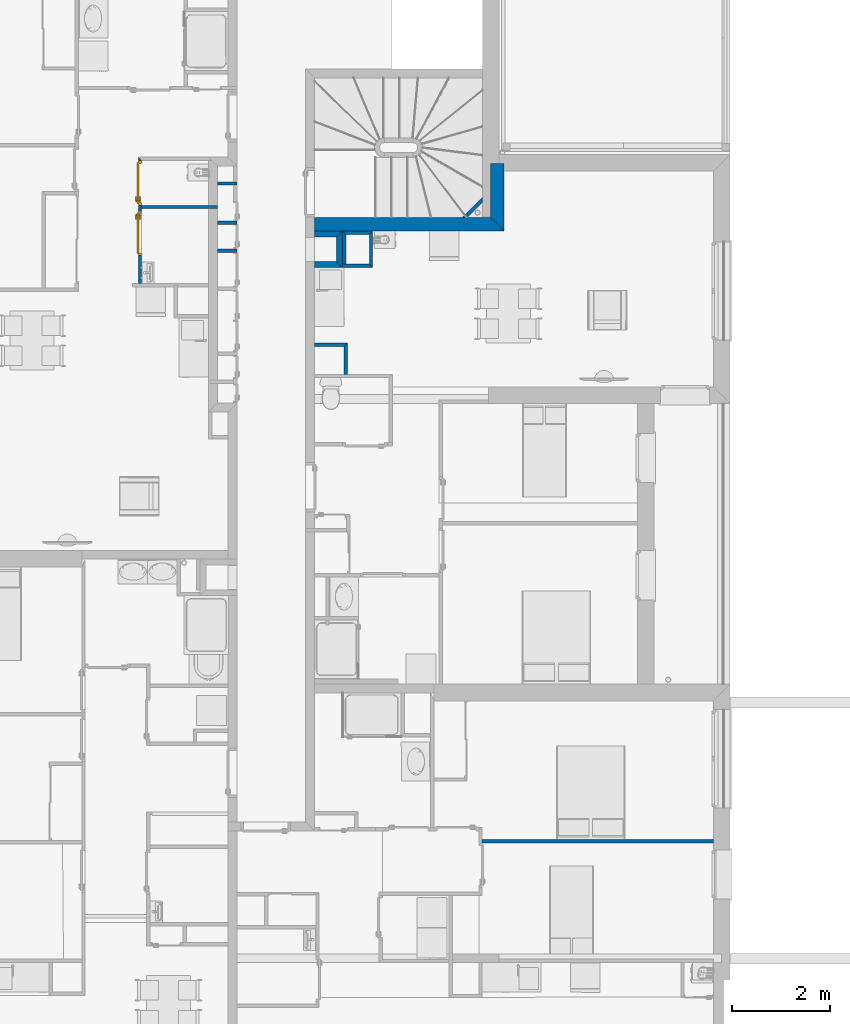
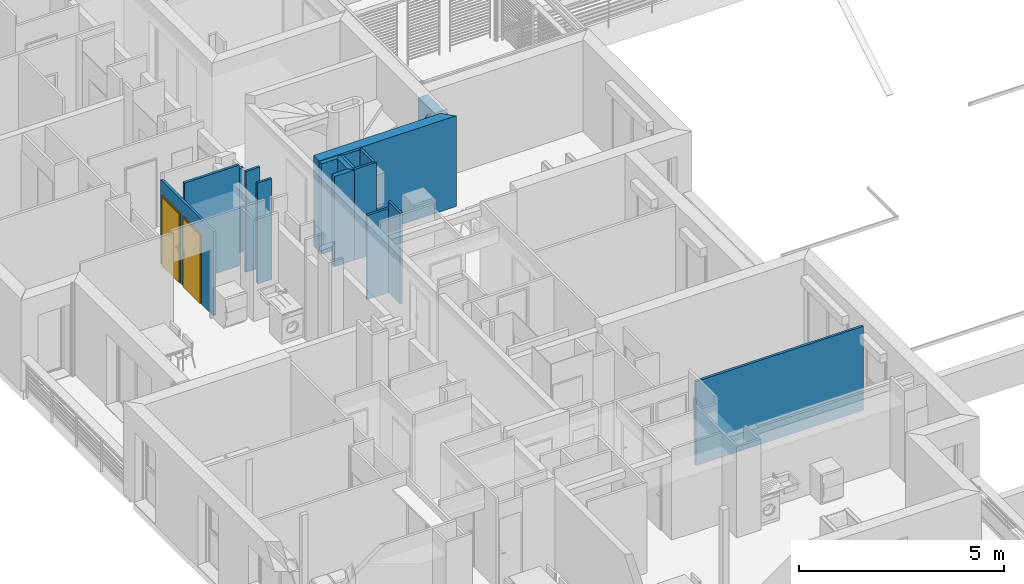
# One storey, part 39 of 171: 18 walls, 2 doors, 2 openings.
"""IFC2X3 building model written with IfcOpenShell, lengths in millimetres."""

from ifc_helpers import new_model, entity, si_unit, converted_unit, derived_unit, money_unit, direction, frame, origin_with_axes, origin_2d_with_axis, place, context, subcontext, project, spatial, polyline, rectangle, outline, extrude, faceted_brep, source, transform, mapped, material, layer, layer_set, layer_usage, type_object, element, fill, save


model = new_model("IFC2X3")

# Units and contexts
model_context = context("Model", 3, precision=0.01, world=origin_with_axes(), true_north=direction((0.0, 1.0)))
body_context = subcontext(model_context, "Body", "Model", "MODEL_VIEW")
ifc_project = project(units=[si_unit("LENGTHUNIT", "METRE", prefix="MILLI"), si_unit("AREAUNIT", "SQUARE_METRE"), si_unit("VOLUMEUNIT", "CUBIC_METRE"), converted_unit("PLANEANGLEUNIT", "DEGREE", entity("IfcPlaneAngleMeasure", 0.0174532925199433), si_unit("PLANEANGLEUNIT", "RADIAN"), dimensions=[0, 0, 0, 0, 0, 0, 0]), money_unit("USD"), converted_unit("TIMEUNIT", "Year", entity("IfcTimeMeasure", 31557600.0), si_unit("TIMEUNIT", "SECOND"), dimensions=[0, 0, 1, 0, 0, 0, 0]), si_unit("MASSUNIT", "GRAM", prefix="KILO"), si_unit("THERMODYNAMICTEMPERATUREUNIT", "DEGREE_CELSIUS"), si_unit("LUMINOUSINTENSITYUNIT", "LUMEN"), si_unit("ENERGYUNIT", "JOULE", prefix="MEGA"), derived_unit("THERMALCONDUCTANCEUNIT", [(si_unit("POWERUNIT", "WATT"), 1), (si_unit("LENGTHUNIT", "METRE"), -1), (si_unit("THERMODYNAMICTEMPERATUREUNIT", "KELVIN"), -1)]), derived_unit("SPECIFICHEATCAPACITYUNIT", [(si_unit("ENERGYUNIT", "JOULE"), 1), (si_unit("MASSUNIT", "GRAM", prefix="KILO"), -1), (si_unit("THERMODYNAMICTEMPERATUREUNIT", "KELVIN"), -1)]), derived_unit("MASSDENSITYUNIT", [(si_unit("MASSUNIT", "GRAM", prefix="KILO"), 1), (si_unit("VOLUMEUNIT", "CUBIC_METRE"), -1)])], contexts=[model_context])

# Site, building, storey
site_placement = place(None, origin_with_axes())
site = spatial("IfcSite", under=ifc_project, at=site_placement, Name="Site", CompositionType="ELEMENT")
building_placement = place(site_placement, origin_with_axes())
building = spatial("IfcBuilding", under=site, at=building_placement, Name="Bâtiment", CompositionType="ELEMENT")
storey_placement = place(building_placement, frame((0.0, 0.0, 3000.0), z_axis=(0.0, 0.0, 1.0), x_axis=(1.0, 0.0, 0.0)))
storey = spatial("IfcBuildingStorey", under=building, at=storey_placement, Name="rdc", CompositionType="ELEMENT", Elevation=3000.0)

# Wall, openings, doors
ifc_material_1 = material(Name="Hachure solide 268963992")
ifc_layer_1 = layer(ifc_material_1, 70.0, ventilated="UNKNOWN")
ifc_layer_set_1 = layer_set([ifc_layer_1], Name="Cloison 70 0826278243")
ifc_layer_usage_1 = layer_usage(ifc_layer_set_1, "AXIS2", "POSITIVE", -70.0)
wall_type_1 = type_object("IfcWallType", Name="Cloison 70 0826278243 70", PredefinedType="NOTDEFINED")
wall_1_placement = place(storey_placement, frame((2222302.398579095, -638652.0255094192, 0.0), z_axis=(0.0, 0.0, 1.0), x_axis=(2.461209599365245e-07, 0.9999999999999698, 0.0)))
wall_1 = element("IfcWallStandardCase", 1, at=wall_1_placement, inside=storey, type_object=wall_type_1, material=ifc_layer_usage_1, Name="Mur-149", context=body_context, shape_type="SweptSolid", body=[
    extrude(outline(polyline([(69.99999999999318, -70.00000000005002), (2574.727457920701, -70.00000000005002), (2644.727442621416, 0.0), (69.99999999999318, 0.0), (69.99999999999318, -70.00000000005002)])), origin_with_axes(), (0.0, 0.0, 1.0), 2504.826233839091),
])
opening_1_placement = place(wall_1_placement, frame((1095.779735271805, -2.273736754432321e-10, 0.0), z_axis=(0.0, 0.0, 1.0), x_axis=(1.0, 0.0, 0.0)))
opening_1 = element("IfcOpeningElement", 2, at=opening_1_placement, cuts=wall_1, Name="Por-278", context=body_context, shape_type="SweptSolid", body=[
    extrude(rectangle(XDim=910.0, YDim=2080.0, at=origin_2d_with_axis()), frame((0.0, -70.00000000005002, 1040.0), z_axis=(0.0, -1.0, 0.0), x_axis=(-1.0, 0.0, 0.0)), (0.0, 0.0, -1.0), 140.0),
])
opening_2_placement = place(wall_1_placement, frame((2119.727458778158, -1.13686837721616e-10, 0.0), z_axis=(0.0, 0.0, 1.0), x_axis=(1.0, 0.0, 0.0)))
opening_2 = element("IfcOpeningElement", 3, at=opening_2_placement, cuts=wall_1, Name="Por-278", context=body_context, shape_type="SweptSolid", body=[
    extrude(rectangle(XDim=910.0, YDim=2080.0, at=origin_2d_with_axis()), frame((0.0, -70.00000000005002, 1040.0), z_axis=(0.0, 1.0, 0.0), x_axis=(1.0, 0.0, 0.0)), (0.0, 0.0, 1.0), 140.0),
])
door_style = type_object("IfcDoorStyle", Name="Porte_1v", ConstructionType="NOTDEFINED", OperationType="NOTDEFINED", ParameterTakesPrecedence=False, Sizeable=False)
shared_shape_1 = source(origin_with_axes(), body_context, "Body", "Brep", [
    faceted_brep([(454.9999999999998, 0.0, 0.0), (414.9999999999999, 0.0, 0.0), (414.9999999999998, 0.0, 2040.0), (-414.9999999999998, 0.0, 2040.0), (-414.9999999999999, 0.0, 0.0), (-454.9999999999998, 0.0, 0.0), (-454.9999999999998, 0.0, 2080.0), (454.9999999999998, 0.0, 2080.0), (454.9999999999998, -69.99999999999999, 0.0), (399.9999999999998, -69.99999999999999, 0.0), (399.9999999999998, -15.0, 0.0), (414.9999999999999, -15.0, 0.0), (414.9999999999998, -15.0, 2040.0), (-414.9999999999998, -15.0, 2040.0), (-414.9999999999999, -15.0, 0.0), (-399.9999999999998, -15.0, 0.0), (-399.9999999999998, -69.99999999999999, 0.0), (-454.9999999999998, -69.99999999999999, 0.0), (-454.9999999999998, -69.99999999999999, 2080.0), (454.9999999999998, -69.99999999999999, 2080.0), (-399.9999999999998, -69.99999999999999, 2025.0), (399.9999999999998, -69.99999999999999, 2025.0), (399.9999999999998, -15.0, 2025.0), (-399.9999999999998, -15.0, 2025.0)], [[[0, 1, 2, 3, 4, 5, 6, 7]], [[0, 8, 9, 10, 11, 1]], [[1, 11, 12, 2]], [[2, 12, 13, 3]], [[3, 13, 14, 4]], [[5, 4, 14, 15, 16, 17]], [[18, 6, 5, 17]], [[19, 7, 6, 18]], [[8, 0, 7, 19]], [[9, 8, 19, 18, 17, 16, 20, 21]], [[10, 9, 21, 22]], [[11, 10, 22, 23, 15, 14, 13, 12]], [[23, 20, 16, 15]], [[22, 21, 20, 23]]]),
    faceted_brep([(-349.9999999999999, -15.0, 900.0), (-389.9999999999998, -15.0, 900.0), (-389.9999999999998, -15.0, 1100.0), (-349.9999999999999, -15.0, 1100.0), (-349.9999999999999, -24.99999999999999, 900.0), (-389.9999999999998, -24.99999999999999, 900.0), (-389.9999999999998, -24.99999999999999, 1100.0), (-349.9999999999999, -24.99999999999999, 1100.0)], [[[0, 1, 2, 3]], [[1, 0, 4, 5]], [[2, 1, 5, 6]], [[3, 2, 6, 7]], [[0, 3, 7, 4]], [[5, 4, 7, 6]]]),
    faceted_brep([(-279.9999999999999, -24.99999999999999, 1000.0), (-379.9999999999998, -24.99999999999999, 1000.0), (-379.9999999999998, -24.99999999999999, 1020.0), (-279.9999999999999, -24.99999999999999, 1020.0), (-279.9999999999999, -44.99999999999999, 1000.0), (-379.9999999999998, -44.99999999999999, 1000.0), (-379.9999999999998, -44.99999999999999, 1020.0), (-279.9999999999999, -44.99999999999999, 1020.0)], [[[0, 1, 2, 3]], [[1, 0, 4, 5]], [[2, 1, 5, 6]], [[3, 2, 6, 7]], [[0, 3, 7, 4]], [[5, 4, 7, 6]]]),
    faceted_brep([(-349.9999999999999, 34.99999999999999, 900.0), (-389.9999999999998, 34.99999999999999, 900.0), (-389.9999999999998, 34.99999999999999, 1100.0), (-349.9999999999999, 34.99999999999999, 1100.0), (-349.9999999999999, 24.99999999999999, 900.0), (-389.9999999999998, 24.99999999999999, 900.0), (-389.9999999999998, 24.99999999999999, 1100.0), (-349.9999999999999, 24.99999999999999, 1100.0)], [[[0, 1, 2, 3]], [[1, 0, 4, 5]], [[2, 1, 5, 6]], [[3, 2, 6, 7]], [[0, 3, 7, 4]], [[5, 4, 7, 6]]]),
    faceted_brep([(-279.9999999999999, 54.99999999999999, 1000.0), (-379.9999999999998, 54.99999999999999, 1000.0), (-379.9999999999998, 54.99999999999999, 1020.0), (-279.9999999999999, 54.99999999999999, 1020.0), (-279.9999999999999, 34.99999999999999, 1000.0), (-379.9999999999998, 34.99999999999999, 1000.0), (-379.9999999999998, 34.99999999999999, 1020.0), (-279.9999999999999, 34.99999999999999, 1020.0)], [[[0, 1, 2, 3]], [[1, 0, 4, 5]], [[2, 1, 5, 6]], [[3, 2, 6, 7]], [[0, 3, 7, 4]], [[5, 4, 7, 6]]]),
    faceted_brep([(-414.9999999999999, 24.99999999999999, 0.0), (414.9999999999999, 24.99999999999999, 0.0), (414.9999999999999, -15.0, 0.0), (-414.9999999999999, -15.0, 0.0), (-414.9999999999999, 24.99999999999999, 2040.0), (414.9999999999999, 24.99999999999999, 2040.0), (414.9999999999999, -15.0, 2040.0), (-414.9999999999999, -15.0, 2040.0)], [[[0, 1, 2, 3]], [[0, 4, 5, 1]], [[1, 5, 6, 2]], [[3, 2, 6, 7]], [[4, 0, 3, 7]], [[5, 4, 7, 6]]]),
])
door_1_placement = place(opening_2_placement, frame((-415.0000000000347, -1.13686837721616e-10, 0.0), z_axis=(0.0, 0.0, 1.0), x_axis=(1.0, 0.0, 0.0)))
door_1 = element("IfcDoor", 4, at=door_1_placement, inside=storey, type_object=door_style, Name="Por-278", OverallHeight=2040.0, OverallWidth=830.0, context=body_context, shape_type="MappedRepresentation", body=[
    mapped(shared_shape_1, transform((415.0000000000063, 0.0, 0.0))),
])
fill(opening_2, door_1)
shared_shape_2 = source(origin_with_axes(), body_context, "Body", "Brep", [
    faceted_brep([(-454.9999999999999, 0.0, 0.0), (-454.9999999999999, 0.0, 2080.0), (454.9999999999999, 0.0, 2080.0), (454.9999999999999, 0.0, 0.0), (415.0, 0.0, 0.0), (414.9999999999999, 0.0, 2040.0), (-414.9999999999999, 0.0, 2040.0), (-415.0, 0.0, 0.0), (-454.9999999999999, -70.0, 0.0), (-454.9999999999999, -70.0, 2080.0), (454.9999999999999, -70.0, 2080.0), (454.9999999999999, -70.0, 0.0), (399.9999999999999, -70.0, 0.0), (399.9999999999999, -15.0, 0.0), (415.0, -15.0, 0.0), (414.9999999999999, -15.0, 2040.0), (-414.9999999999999, -15.0, 2040.0), (-415.0, -15.0, 0.0), (-399.9999999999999, -15.0, 0.0), (-399.9999999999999, -70.0, 0.0), (-399.9999999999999, -70.0, 2025.0), (399.9999999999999, -70.0, 2025.0), (399.9999999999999, -15.0, 2025.0), (-399.9999999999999, -15.0, 2025.0)], [[[0, 1, 2, 3, 4, 5, 6, 7]], [[8, 9, 1, 0]], [[9, 10, 2, 1]], [[10, 11, 3, 2]], [[3, 11, 12, 13, 14, 4]], [[5, 4, 14, 15]], [[6, 5, 15, 16]], [[7, 6, 16, 17]], [[0, 7, 17, 18, 19, 8]], [[19, 20, 21, 12, 11, 10, 9, 8]], [[22, 13, 12, 21]], [[17, 16, 15, 14, 13, 22, 23, 18]], [[18, 23, 20, 19]], [[23, 22, 21, 20]]]),
    faceted_brep([(350.0, -15.0, 900.0), (350.0, -15.0, 1100.0), (389.9999999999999, -15.0, 1100.0), (389.9999999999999, -15.0, 900.0), (350.0, -25.0, 900.0), (350.0, -25.0, 1100.0), (389.9999999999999, -25.0, 1100.0), (389.9999999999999, -25.0, 900.0)], [[[0, 1, 2, 3]], [[0, 4, 5, 1]], [[1, 5, 6, 2]], [[2, 6, 7, 3]], [[3, 7, 4, 0]], [[7, 6, 5, 4]]]),
    faceted_brep([(279.9999999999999, -25.0, 1000.0), (279.9999999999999, -25.0, 1020.0), (379.9999999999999, -25.0, 1020.0), (379.9999999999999, -25.0, 1000.0), (279.9999999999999, -45.0, 1000.0), (279.9999999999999, -45.0, 1020.0), (379.9999999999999, -45.0, 1020.0), (379.9999999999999, -45.0, 1000.0)], [[[0, 1, 2, 3]], [[0, 4, 5, 1]], [[1, 5, 6, 2]], [[2, 6, 7, 3]], [[3, 7, 4, 0]], [[7, 6, 5, 4]]]),
    faceted_brep([(350.0, 35.0, 900.0), (350.0, 35.0, 1100.0), (389.9999999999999, 35.0, 1100.0), (389.9999999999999, 35.0, 900.0), (350.0, 25.0, 900.0), (350.0, 25.0, 1100.0), (389.9999999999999, 25.0, 1100.0), (389.9999999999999, 25.0, 900.0)], [[[0, 1, 2, 3]], [[0, 4, 5, 1]], [[1, 5, 6, 2]], [[2, 6, 7, 3]], [[3, 7, 4, 0]], [[7, 6, 5, 4]]]),
    faceted_brep([(279.9999999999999, 55.00000000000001, 1000.0), (279.9999999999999, 55.00000000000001, 1020.0), (379.9999999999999, 55.00000000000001, 1020.0), (379.9999999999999, 55.00000000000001, 1000.0), (279.9999999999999, 35.0, 1000.0), (279.9999999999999, 35.0, 1020.0), (379.9999999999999, 35.0, 1020.0), (379.9999999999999, 35.0, 1000.0)], [[[0, 1, 2, 3]], [[0, 4, 5, 1]], [[1, 5, 6, 2]], [[2, 6, 7, 3]], [[3, 7, 4, 0]], [[7, 6, 5, 4]]]),
    faceted_brep([(415.0, 25.0, 0.0), (415.0, -15.0, 0.0), (-415.0, -15.0, 0.0), (-415.0, 25.0, 0.0), (415.0, 25.0, 2040.0), (415.0, -15.0, 2040.0), (-415.0, -15.0, 2040.0), (-415.0, 25.0, 2040.0)], [[[0, 1, 2, 3]], [[4, 5, 1, 0]], [[1, 5, 6, 2]], [[3, 2, 6, 7]], [[0, 3, 7, 4]], [[7, 6, 5, 4]]]),
])
door_2_placement = place(opening_1_placement, frame((-414.999999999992, 3.410605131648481e-10, 0.0), z_axis=(0.0, 0.0, 1.0), x_axis=(1.0, 0.0, 0.0)))
door_2 = element("IfcDoor", 5, at=door_2_placement, inside=storey, type_object=door_style, Name="Por-278", OverallHeight=2040.0, OverallWidth=830.0, context=body_context, shape_type="MappedRepresentation", body=[
    mapped(shared_shape_2, transform((414.999999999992, -1.13686837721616e-10, 0.0))),
])
fill(opening_1, door_2)

# Walls
ifc_layer_usage_2 = layer_usage(ifc_layer_set_1, "AXIS2", "NEGATIVE", 0.0)
wall_2_placement = place(storey_placement, frame((2223732.399917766, -637879.3890085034, 0.0), z_axis=(0.0, 0.0, 1.0), x_axis=(1.0, 0.0, 0.0)))
element("IfcWallStandardCase", 6, at=wall_2_placement, inside=storey, type_object=wall_type_1, material=ifc_layer_usage_2, Name="Mur-121", context=body_context, shape_type="SweptSolid", body=[
    extrude(outline(polyline([(180.0002031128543, -69.99999999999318), (580.0717240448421, -69.99999999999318), (580.0717240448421, 0.0), (180.0002031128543, 0.0), (180.0002031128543, -69.99999999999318)])), origin_with_axes(), (0.0, 0.0, 1.0), 3000.0),
])
ifc_layer_usage_3 = layer_usage(ifc_layer_set_1, "AXIS2", "NEGATIVE", 0.0)
wall_3_placement = place(storey_placement, frame((2223732.399917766, -637309.3890085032, 0.0), z_axis=(0.0, 0.0, 1.0), x_axis=(1.0, 0.0, 0.0)))
element("IfcWallStandardCase", 7, at=wall_3_placement, inside=storey, type_object=wall_type_1, material=ifc_layer_usage_3, Name="Mur-121", context=body_context, shape_type="SweptSolid", body=[
    extrude(outline(polyline([(180.0002031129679, -69.99999999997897), (580.0980729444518, -69.99999999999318), (580.0980729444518, 0.0), (180.0002031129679, 0.0), (180.0002031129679, -69.99999999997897)])), origin_with_axes(), (0.0, 0.0, 1.0), 3000.0),
])
ifc_layer_usage_4 = layer_usage(ifc_layer_set_1, "AXIS2", "POSITIVE", -70.0)
wall_4_placement = place(storey_placement, frame((2223912.40001153, -637057.2977132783, 0.0), z_axis=(0.0, 0.0, 1.0), x_axis=(-0.9999999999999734, -2.308105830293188e-07, 0.0)))
element("IfcWallStandardCase", 8, at=wall_4_placement, inside=storey, type_object=wall_type_1, material=ifc_layer_usage_4, Name="Mur-149", context=body_context, shape_type="SweptSolid", body=[
    extrude(outline(polyline([(0.0, -69.99999999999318), (1540.001006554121, -69.99999999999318), (1540.001039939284, 0.0), (0.0, 0.0), (0.0, -69.99999999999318)])), origin_with_axes(), (0.0, 0.0, 1.0), 3000.0),
])
ifc_layer_usage_5 = layer_usage(ifc_layer_set_1, "AXIS2", "NEGATIVE", 70.0)
wall_5_placement = place(storey_placement, frame((2225712.318356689, -639860.3706731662, 0.0), z_axis=(0.0, 0.0, 1.0), x_axis=(0.9999999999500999, -9.990002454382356e-06, 0.0)))
element("IfcWallStandardCase", 9, at=wall_5_placement, inside=storey, type_object=wall_type_1, material=ifc_layer_usage_5, Name="Mur-149", context=body_context, shape_type="SweptSolid", body=[
    extrude(outline(polyline([(180.0000000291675, 0.0), (780.000000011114, 0.0), (849.999300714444, 70.00000000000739), (179.9993007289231, 70.00000000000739), (180.0000000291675, 0.0)])), origin_with_axes(), (0.0, 0.0, 1.0), 2500.0),
])
ifc_layer_usage_6 = layer_usage(ifc_layer_set_1, "AXIS2", "NEGATIVE", 70.0)
wall_6_placement = place(storey_placement, frame((2229236.880543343, -649972.5110715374, 0.0), z_axis=(0.0, 0.0, 1.0), x_axis=(1.0, 0.0, 0.0)))
element("IfcWallStandardCase", 10, at=wall_6_placement, inside=storey, type_object=wall_type_1, material=ifc_layer_usage_6, Name="Mur-149", context=body_context, shape_type="SweptSolid", body=[
    extrude(outline(polyline([(69.9984979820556, 0.0), (4779.764193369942, 0.0), (4779.763796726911, 69.99999999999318), (69.998930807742, 69.99999999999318), (69.9984979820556, 0.0)])), origin_with_axes(), (0.0, 0.0, 1.0), 2500.0),
])
ifc_layer_usage_7 = layer_usage(ifc_layer_set_1, "AXIS2", "POSITIVE", 0.0)
wall_7_placement = place(storey_placement, frame((2229006.076128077, -637233.3438949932, 0.0), z_axis=(0.0, 0.0, 1.0), x_axis=(0.7071067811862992, 0.7071067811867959, 0.0)))
element("IfcWallStandardCase", 11, at=wall_7_placement, inside=storey, type_object=wall_type_1, material=ifc_layer_usage_7, Name="Mur-120", context=body_context, shape_type="SweptSolid", body=[
    extrude(outline(polyline([(3.215063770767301e-07, -1.13686837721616e-10), (434.7291193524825, -1.13686837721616e-10), (504.7291193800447, 69.99999999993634), (-69.99999967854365, 70.00000000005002), (3.215063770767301e-07, -1.13686837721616e-10)])), origin_with_axes(), (0.0, 0.0, 1.0), 2460.000000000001),
])
ifc_layer_usage_8 = layer_usage(ifc_layer_set_1, "AXIS2", "NEGATIVE", 0.0)
wall_8_placement = place(storey_placement, frame((2223732.400091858, -636509.3242415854, 0.0), z_axis=(0.0, 0.0, 1.0), x_axis=(1.0, 0.0, 0.0)))
element("IfcWallStandardCase", 12, at=wall_8_placement, inside=storey, type_object=wall_type_1, material=ifc_layer_usage_8, Name="Mur-121", context=body_context, shape_type="SweptSolid", body=[
    extrude(outline(polyline([(180.0000290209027, -69.99999999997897), (580.0980729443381, -69.99999999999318), (580.0980729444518, 0.0), (180.0000290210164, 0.0), (180.0000290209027, -69.99999999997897)])), origin_with_axes(), (0.0, 0.0, 1.0), 2500.0),
])
ifc_material_2 = material(Name="Hachure solide 269229667")
ifc_layer_2 = layer(ifc_material_2, 70.0, ventilated="UNKNOWN")
ifc_layer_set_2 = layer_set([ifc_layer_2], Name="Cloison 70 0836576958")
ifc_layer_usage_9 = layer_usage(ifc_layer_set_2, "AXIS2", "NEGATIVE", 0.0)
wall_type_2 = type_object("IfcWallType", Name="Cloison 70 0836576958 70", PredefinedType="NOTDEFINED")
wall_9_placement = place(storey_placement, frame((2227077.294525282, -637515.8216903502, 0.0), z_axis=(0.0, 0.0, 1.0), x_axis=(0.0, -1.0, 0.0)))
element("IfcWallStandardCase", 13, at=wall_9_placement, inside=storey, type_object=wall_type_2, material=ifc_layer_usage_9, Name="Mur-148", context=body_context, shape_type="SweptSolid", body=[
    extrude(outline(polyline([(69.99999999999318, -70.00000000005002), (670.000000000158, -70.00000000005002), (740.0000000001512, 0.0), (0.0, 0.0), (69.99999999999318, -70.00000000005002)])), origin_with_axes(), (0.0, 0.0, 1.0), 2700.0),
])
ifc_layer_usage_10 = layer_usage(ifc_layer_set_2, "AXIS2", "POSITIVE", 0.0)
wall_10_placement = place(storey_placement, frame((2226461.81823076, -637515.8216903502, 0.0), z_axis=(0.0, 0.0, 1.0), x_axis=(0.0, -1.0, 0.0)))
element("IfcWallStandardCase", 14, at=wall_10_placement, inside=storey, type_object=wall_type_2, material=ifc_layer_usage_10, Name="Mur-148", context=body_context, shape_type="SweptSolid", body=[
    extrude(outline(polyline([(0.0, 0.0), (740.0000000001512, 0.0), (740.0000000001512, 70.00000000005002), (69.99999999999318, 70.00000000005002), (0.0, 0.0)])), origin_with_axes(), (0.0, 0.0, 1.0), 2700.0),
])
ifc_layer_usage_11 = layer_usage(ifc_layer_set_2, "AXIS2", "POSITIVE", 0.0)
wall_11_placement = place(storey_placement, frame((2226461.81823076, -638255.8216903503, 0.0), z_axis=(0.0, 0.0, 1.0), x_axis=(1.0, 0.0, 0.0)))
element("IfcWallStandardCase", 15, at=wall_11_placement, inside=storey, type_object=wall_type_2, material=ifc_layer_usage_11, Name="Mur-148", context=body_context, shape_type="SweptSolid", body=[
    extrude(outline(polyline([(-3.410605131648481e-10, 0.0), (615.4762945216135, 0.0), (545.4762945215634, 69.99999999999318), (0.04282755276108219, 69.99999999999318), (-3.410605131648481e-10, 0.0)])), origin_with_axes(), (0.0, 0.0, 1.0), 2700.0),
])
ifc_layer_usage_12 = layer_usage(ifc_layer_set_2, "AXIS2", "NEGATIVE", 0.0)
wall_12_placement = place(storey_placement, frame((2226461.81823076, -637515.8216903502, 0.0), z_axis=(0.0, 0.0, 1.0), x_axis=(1.0, 0.0, 0.0)))
element("IfcWallStandardCase", 16, at=wall_12_placement, inside=storey, type_object=wall_type_2, material=ifc_layer_usage_12, Name="Mur-148", context=body_context, shape_type="SweptSolid", body=[
    extrude(outline(polyline([(70.00000000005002, -69.99999999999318), (545.4762945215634, -69.99999999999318), (615.4762945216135, 0.0), (0.0, 0.0), (70.00000000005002, -69.99999999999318)])), origin_with_axes(), (0.0, 0.0, 1.0), 2700.0),
])
ifc_layer_usage_13 = layer_usage(ifc_layer_set_2, "AXIS2", "NEGATIVE", 0.0)
wall_13_placement = place(storey_placement, frame((2226562.318356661, -639860.3791646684, 0.0), z_axis=(0.0, 0.0, 1.0), x_axis=(0.0, -1.0, 0.0)))
element("IfcWallStandardCase", 17, at=wall_13_placement, inside=storey, type_object=wall_type_2, material=ifc_layer_usage_13, Name="Mur-148", context=body_context, shape_type="SweptSolid", body=[
    extrude(outline(polyline([(-0.0006993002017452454, -70.00000000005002), (568.5327847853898, -70.00000000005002), (568.5327847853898, 0.0), (-70.00000000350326, 0.0), (-0.0006993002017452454, -70.00000000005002)])), origin_with_axes(), (0.0, 0.0, 1.0), 2700.0),
])
ifc_material_3 = material(Name="Parpaing 312445824")
ifc_layer_3 = layer(ifc_material_3, 180.0, ventilated="UNKNOWN")
ifc_material_4 = material(Name="Isolant styromousse 301821074")
ifc_layer_4 = layer(ifc_material_4, 100.0, ventilated="UNKNOWN")
ifc_layer_set_3 = layer_set([ifc_layer_3, ifc_layer_4], Name="isol int 18+10 0018356637")
ifc_layer_usage_14 = layer_usage(ifc_layer_set_3, "AXIS2", "POSITIVE", 0.0)
wall_type_3 = type_object("IfcWallType", Name="isol int 18+10 0018356637 280", PredefinedType="NOTDEFINED")
wall_14_placement = place(storey_placement, frame((2229473.476035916, -636133.3438947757, 0.0), z_axis=(0.0, 0.0, 1.0), x_axis=(3.426107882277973e-10, -1.0, 0.0)))
element("IfcWallStandardCase", 18, at=wall_14_placement, inside=storey, type_object=wall_type_3, material=ifc_layer_usage_14, Name="Mur-142", context=body_context, shape_type="SweptSolid", body=[
    extrude(outline(polyline([(0.0, 0.0), (1099.999999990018, 0.0), (1380.000000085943, 279.9999999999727), (0.0, 279.9999999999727), (0.0, 0.0)])), origin_with_axes(), (0.0, 0.0, 1.0), 2500.0),
])
ifc_layer_usage_15 = layer_usage(ifc_layer_set_3, "AXIS2", "POSITIVE", 0.0)
wall_15_placement = place(storey_placement, frame((2229473.476036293, -637233.3438947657, 0.0), z_axis=(0.0, 0.0, 1.0), x_axis=(-1.0, 0.0, 0.0)))
element("IfcWallStandardCase", 19, at=wall_15_placement, inside=storey, type_object=wall_type_3, material=ifc_layer_usage_15, Name="Mur-142", context=body_context, shape_type="SweptSolid", body=[
    extrude(outline(polyline([(0.0, 0.0), (3581.157679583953, 0.0), (3581.157679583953, 280.0000000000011), (-280.0000000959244, 280.0000000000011), (0.0, 0.0)])), origin_with_axes(), (0.0, 0.0, 1.0), 2700.0),
])
ifc_material_5 = material(Name="AS_EMPTY 272048125")
ifc_layer_5 = layer(ifc_material_5, 20.0, ventilated="UNKNOWN")
ifc_material_6 = material(Name="Isolant styromousse 275581351")
ifc_layer_6 = layer(ifc_material_6, 80.0, ventilated="UNKNOWN")
ifc_layer_7 = layer(ifc_material_5, 20.0, ventilated="UNKNOWN")
ifc_layer_set_4 = layer_set([ifc_layer_5, ifc_layer_6, ifc_layer_7], Name="SAA 120")
ifc_layer_usage_16 = layer_usage(ifc_layer_set_4, "AXIS2", "POSITIVE", 0.0)
wall_type_4 = type_object("IfcWallType", Name="SAA 120 120", PredefinedType="NOTDEFINED")
wall_16_placement = place(storey_placement, frame((2226462.272495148, -637513.3438947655, 0.0), z_axis=(0.0, 0.0, 1.0), x_axis=(-1.0, 0.0, 0.0)))
element("IfcWallStandardCase", 20, at=wall_16_placement, inside=storey, type_object=wall_type_4, material=ifc_layer_usage_16, Name="Mur-156", context=body_context, shape_type="SweptSolid", body=[
    extrude(outline(polyline([(-1.13686837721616e-10, 0.0), (569.9541384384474, 0.0), (569.9541384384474, 120.0000000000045), (120.0734411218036, 120.0000000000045), (-1.13686837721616e-10, 0.0)])), origin_with_axes(), (0.0, 0.0, 1.0), 2690.0),
])
ifc_layer_usage_17 = layer_usage(ifc_layer_set_4, "AXIS2", "NEGATIVE", 0.0)
wall_17_placement = place(storey_placement, frame((2226462.272495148, -637513.3438947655, 0.0), z_axis=(0.0, 0.0, 1.0), x_axis=(-0.0006118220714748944, -0.9999998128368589, 0.0)))
element("IfcWallStandardCase", 21, at=wall_17_placement, inside=storey, type_object=wall_type_4, material=ifc_layer_usage_17, Name="Mur-156", context=body_context, shape_type="SweptSolid", body=[
    extrude(outline(polyline([(120.0734411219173, -119.9999999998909), (622.5513307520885, -120.0000000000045), (742.477934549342, 0.0), (0.0, 0.0), (120.0734411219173, -119.9999999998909)])), origin_with_axes(), (0.0, 0.0, 1.0), 2690.0),
])
ifc_layer_usage_18 = layer_usage(ifc_layer_set_4, "AXIS2", "NEGATIVE", 0.0)
wall_18_placement = place(storey_placement, frame((2226461.818230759, -638255.8216903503, 0.0), z_axis=(0.0, 0.0, 1.0), x_axis=(-1.0, 0.0, 0.0)))
element("IfcWallStandardCase", 22, at=wall_18_placement, inside=storey, type_object=wall_type_4, material=ifc_layer_usage_18, Name="Mur-156", context=body_context, shape_type="SweptSolid", body=[
    extrude(outline(polyline([(119.9266037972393, -120.0000000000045), (569.4998740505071, -120.0000000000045), (569.4998740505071, 0.0), (1.13686837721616e-10, 0.0), (119.9266037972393, -120.0000000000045)])), origin_with_axes(), (0.0, 0.0, 1.0), 2690.0),
])

save(model, "model.ifc")
